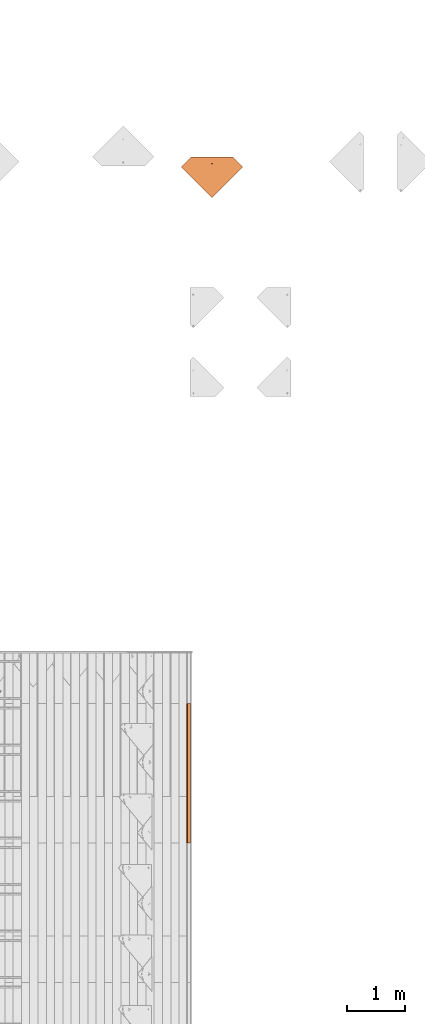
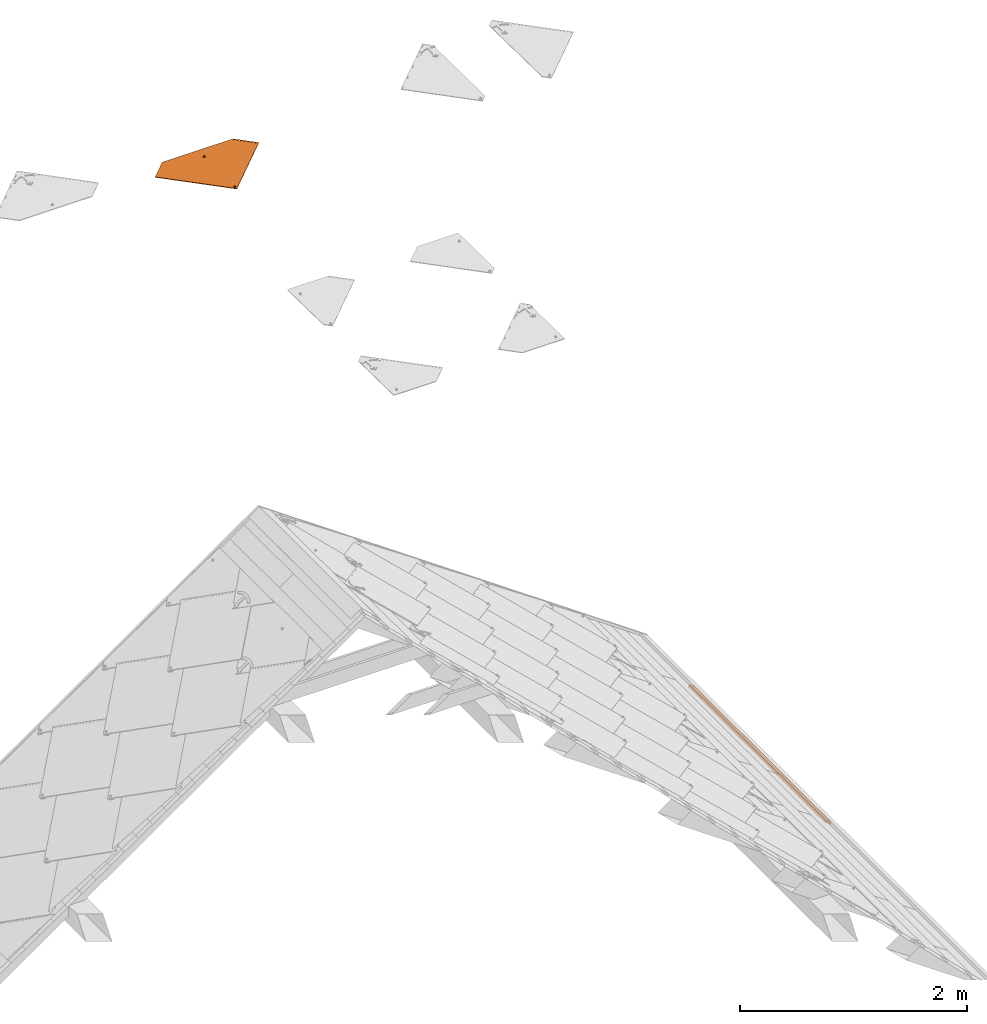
# One storey, part 92 of 133: 2 proxies, 1 element without a shape of its own.
"""IFC2X3 building model written with IfcOpenShell, lengths in millimetres."""

from ifc_helpers import new_model, entity, si_unit, converted_unit, derived_unit, direction, frame, origin, place, context, subcontext, project, spatial, polyline, outline, extrude, faceted_brep, source, transform, mapped, material, material_list, type_object, type_shapes, element, aggregate, save


model = new_model("IFC2X3")

# Units and contexts
model_context = context("Model", 3, precision=0.01, world=origin(), true_north=direction((6.12303176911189e-17, 1.0)))
body_context = subcontext(model_context, "Body", "Model", "MODEL_VIEW")
ifc_project = project(units=[si_unit("LENGTHUNIT", "METRE", prefix="MILLI"), si_unit("AREAUNIT", "SQUARE_METRE"), si_unit("VOLUMEUNIT", "CUBIC_METRE"), converted_unit("PLANEANGLEUNIT", "DEGREE", entity("IfcRatioMeasure", 0.0174532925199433), si_unit("PLANEANGLEUNIT", "RADIAN"), dimensions=[0, 0, 0, 0, 0, 0, 0]), si_unit("MASSUNIT", "GRAM", prefix="KILO"), derived_unit("MASSDENSITYUNIT", [(si_unit("MASSUNIT", "GRAM", prefix="KILO"), 1), (si_unit("LENGTHUNIT", "METRE"), -3)]), si_unit("TIMEUNIT", "SECOND"), si_unit("FREQUENCYUNIT", "HERTZ"), si_unit("THERMODYNAMICTEMPERATUREUNIT", "DEGREE_CELSIUS"), derived_unit("THERMALTRANSMITTANCEUNIT", [(si_unit("MASSUNIT", "GRAM", prefix="KILO"), 1), (si_unit("THERMODYNAMICTEMPERATUREUNIT", "KELVIN"), -1), (si_unit("TIMEUNIT", "SECOND"), -3)]), derived_unit("VOLUMETRICFLOWRATEUNIT", [(si_unit("LENGTHUNIT", "METRE"), 3), (si_unit("TIMEUNIT", "SECOND"), -1)]), si_unit("ELECTRICCURRENTUNIT", "AMPERE"), si_unit("ELECTRICVOLTAGEUNIT", "VOLT"), si_unit("POWERUNIT", "WATT"), si_unit("FORCEUNIT", "NEWTON", prefix="KILO"), si_unit("ILLUMINANCEUNIT", "LUX"), si_unit("LUMINOUSFLUXUNIT", "LUMEN"), si_unit("LUMINOUSINTENSITYUNIT", "CANDELA"), derived_unit("USERDEFINED", [(si_unit("MASSUNIT", "GRAM", prefix="KILO"), -1), (si_unit("LENGTHUNIT", "METRE"), -2), (si_unit("TIMEUNIT", "SECOND"), 3), (si_unit("LUMINOUSFLUXUNIT", "LUMEN"), 1)]), derived_unit("LINEARVELOCITYUNIT", [(si_unit("LENGTHUNIT", "METRE"), 1), (si_unit("TIMEUNIT", "SECOND"), -1)]), si_unit("PRESSUREUNIT", "PASCAL"), derived_unit("USERDEFINED", [(si_unit("LENGTHUNIT", "METRE"), -2), (si_unit("MASSUNIT", "GRAM", prefix="KILO"), 1), (si_unit("TIMEUNIT", "SECOND"), -2)])], contexts=[model_context])

# Site, building, storey
site_placement = place(None, origin())
site = spatial("IfcSite", under=ifc_project, at=site_placement, Name="Default", CompositionType="ELEMENT")
building_placement = place(site_placement, origin())
building = spatial("IfcBuilding", under=site, at=building_placement, CompositionType="ELEMENT")
storey_placement = place(building_placement, origin())
storey = spatial("IfcBuildingStorey", under=building, at=storey_placement, Name="Level 1", CompositionType="ELEMENT", Elevation=0.0)

# Assembly, proxy
assembly_placement = place(storey_placement, origin())
assembly = element("IfcElementAssembly", 1, at=assembly_placement, inside=storey, Name="Structural Framing Assembly:Roof Construction Assembly", ObjectType="Structural Framing Assembly:Roof Construction Assembly", AssemblyPlace="NOTDEFINED", PredefinedType="USERDEFINED")
ifc_material_1 = material(Name="Wood - Generic - Wood For Showcase")
building_element_proxy_type_1 = type_object("IfcBuildingElementProxyType", Name="Structural Framing 15", PredefinedType="NOTDEFINED", material=ifc_material_1)
shared_shape_1 = source(origin(), body_context, "Body", "SweptSolid", [
    extrude(outline(polyline([(-12.4999999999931, -38.2231230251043), (12.4999999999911, -38.2231230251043), (12.4999999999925, 29.4705287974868), (-12.499999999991, 46.975717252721), (-12.4999999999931, -38.2231230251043)])), frame((5101.25878028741, -6581.94919785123, 88.3155178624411), z_axis=(0.0, 1.0, 0.0), x_axis=(0.573576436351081, 0.0, 0.819152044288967)), (0.0, 0.0, 1.0), 2399.99999999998),
])
type_shapes(building_element_proxy_type_1, [shared_shape_1])
proxy_1_placement = place(assembly_placement, frame((0.0, 7237.49999999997, 0.0)))
proxy_1 = element("IfcBuildingElementProxy", 2, at=proxy_1_placement, type_object=building_element_proxy_type_1, material=ifc_material_1, Name="Structural Framing 292:Structural Framing 15", ObjectType="Structural Framing 292:Structural Framing 15", context=body_context, shape_type="MappedRepresentation", body=[
    mapped(shared_shape_1, transform((0.0, 0.0, 0.0), scale=1.0)),
])
aggregate(assembly, [proxy_1])

# Proxy
ifc_material_2 = material(Name="Rubber - Sunstyle - Black")
ifc_material_3 = material(Name="Glass - Sunstyle - Tainted Black")
ifc_material_list_1 = material_list([ifc_material_2, ifc_material_3])
ifc_material_list_2 = material_list([ifc_material_2, ifc_material_3])
building_element_proxy_type_2 = type_object("IfcBuildingElementProxyType", Name="Shingle Top - Black", PredefinedType="NOTDEFINED", material=ifc_material_list_2)
shared_shape_2 = source(origin(), body_context, "Body", "Brep", [
    faceted_brep([(-518.396436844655, -96.9865733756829, 16.4476231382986), (-518.396436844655, -96.9614556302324, 17.9474128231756), (-526.881123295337, -88.4767691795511, 17.8053154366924), (-526.881123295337, -88.5018869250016, 16.3055257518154), (-376.996804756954, 61.3404039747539, 13.7960402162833), (-368.512118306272, 52.8557175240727, 13.9381376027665), (-376.996804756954, 61.3655217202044, 15.2958299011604), (-368.512118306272, 52.8808352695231, 15.4379272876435)], [[[0, 1, 2, 3]], [[0, 3, 4, 5]], [[3, 2, 6, 4]], [[2, 1, 7, 6]], [[1, 0, 5, 7]], [[5, 4, 6, 7]]]),
    faceted_brep([(0.166366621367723, -33.6374645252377, -4.47296585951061), (-5.6078362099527, -36.9707346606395, -4.4171418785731), (-5.60783620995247, -36.6024255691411, 17.5747274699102), (0.166366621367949, -33.2691554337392, 17.5189034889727), (-5.60783620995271, -43.6372749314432, -4.30549391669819), (-5.60783620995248, -43.2689658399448, 17.6863754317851), (0.166366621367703, -46.9705450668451, -4.24966993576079), (0.166366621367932, -46.6022359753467, 17.7421994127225), (5.94056945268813, -43.6372749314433, -4.30549391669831), (5.94056945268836, -43.2689658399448, 17.686375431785), (5.94056945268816, -36.9707346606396, -4.41714187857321), (5.94056945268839, -36.6024255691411, 17.5747274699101), (-8.43733754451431, -48.5381935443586, 17.774621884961), (0.16636662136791, -52.1014648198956, 17.8342978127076), (-12.0011084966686, -39.9356957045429, 17.6305514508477), (-8.43733754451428, -31.3331978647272, 17.4864810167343), (0.166366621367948, -27.7699265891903, 17.4268050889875), (8.77007078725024, -31.3331978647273, 17.4864810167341), (12.3338417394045, -39.935695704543, 17.6305514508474), (8.77007078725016, -48.5381935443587, 17.7746218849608), (-11.1578780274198, -37.6406185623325, 19.9433933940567), (-9.59010793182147, -39.8646808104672, 21.8708760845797), (0.166366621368, -32.5516055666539, 22.5035764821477), (0.166366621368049, -31.3111079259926, 21.9232298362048), (0.166366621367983, -29.1535570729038, 20.9138547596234), (0.166366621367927, -51.5454208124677, 19.1093557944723), (0.166366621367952, -50.6018442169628, 21.273060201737), (0.166366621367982, -47.1524685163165, 22.7481046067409), (0.166366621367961, -28.2829626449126, 18.7197675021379), (-6.15687907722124, -43.5022527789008, 22.6869725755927), (-6.15687907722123, -36.2018213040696, 22.5647085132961), (11.4906112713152, -42.1520387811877, 20.0189484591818), (10.0152467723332, -40.9390872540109, 21.7920079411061), (6.48961231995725, -36.2018213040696, 22.564708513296), (6.48961231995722, -43.5022527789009, 22.6869725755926), (-6.15687907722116, -43.3682243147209, 30.68986075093), (0.166366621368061, -47.0184400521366, 30.7509927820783), (0.166366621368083, -39.7180085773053, 30.6287287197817), (-6.15687907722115, -36.0677928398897, 30.5675966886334), (6.48961231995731, -43.368224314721, 30.6898607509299), (6.48961231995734, -36.0677928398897, 30.5675966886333), (0.166366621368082, -32.417577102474, 30.5064646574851), (0.166366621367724, -40.3040047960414, -4.36131789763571)], [[[0, 1, 2, 3]], [[1, 4, 5, 2]], [[4, 6, 7, 5]], [[6, 8, 9, 7]], [[8, 10, 11, 9]], [[10, 0, 3, 11]], [[12, 7, 13]], [[7, 12, 5]], [[14, 5, 12]], [[5, 14, 2]], [[15, 2, 14]], [[3, 2, 15]], [[15, 16, 3]], [[16, 17, 3]], [[11, 3, 17]], [[11, 17, 18]], [[9, 11, 18]], [[18, 19, 9]], [[7, 9, 19]], [[19, 13, 7]], [[20, 14, 12]], [[21, 22, 23, 24]], [[24, 20, 21]], [[25, 20, 12]], [[26, 27, 21]], [[15, 14, 20]], [[12, 13, 25]], [[20, 28, 15]], [[28, 20, 24]], [[21, 27, 29]], [[21, 29, 30]], [[26, 21, 20]], [[20, 25, 26]], [[15, 28, 16]], [[21, 30, 22]], [[31, 18, 17]], [[28, 31, 17]], [[32, 27, 26]], [[26, 31, 32]], [[26, 25, 31]], [[25, 19, 31]], [[17, 16, 28]], [[31, 19, 18]], [[24, 31, 28]], [[33, 34, 32]], [[23, 22, 33]], [[24, 32, 31]], [[27, 32, 34]], [[32, 23, 33]], [[19, 25, 13]], [[32, 24, 23]], [[35, 36, 37]], [[37, 38, 35]], [[36, 39, 37]], [[40, 37, 39]], [[37, 40, 41]], [[37, 41, 38]], [[42, 6, 4]], [[4, 1, 42]], [[1, 0, 42]], [[42, 8, 6]], [[0, 10, 42]], [[8, 42, 10]], [[22, 30, 38, 41]], [[30, 29, 35, 38]], [[29, 27, 36, 35]], [[27, 34, 39, 36]], [[34, 33, 40, 39]], [[33, 22, 41, 40]]]),
    faceted_brep([(0.0, -573.927138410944, 4.00636906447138), (-5.77420283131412, -577.260408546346, 4.0621930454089), (-5.77420283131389, -576.892099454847, 26.0540623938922), (0.0, -573.558829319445, 25.9982384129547), (-5.77420283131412, -583.926948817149, 4.1738410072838), (-5.7742028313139, -583.558639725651, 26.1657103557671), (0.0, -587.260218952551, 4.2296649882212), (0.0, -586.891909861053, 26.2215343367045), (5.77420283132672, -583.926948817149, 4.17384100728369), (5.77420283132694, -583.558639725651, 26.165710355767), (5.77420283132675, -577.260408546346, 4.06219304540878), (5.77420283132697, -576.892099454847, 26.0540623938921), (-8.60370416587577, -588.827867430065, 26.253956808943), (0.0, -592.391138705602, 26.3136327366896), (-12.1674751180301, -580.225369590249, 26.1098863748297), (-8.60370416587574, -571.622871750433, 25.9658159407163), (0.0, -568.059600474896, 25.9061400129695), (8.60370416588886, -571.622871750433, 25.9658159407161), (12.1674751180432, -580.225369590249, 26.1098863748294), (8.60370416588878, -588.827867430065, 26.2539568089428), (-11.3242446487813, -577.930292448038, 28.4227283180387), (-9.75647455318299, -580.154354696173, 30.3502110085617), (0.0, -572.84127945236, 30.9829114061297), (0.0, -571.600781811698, 30.4025647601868), (0.0, -569.44323095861, 29.3931896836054), (0.0, -591.835094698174, 27.5886907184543), (0.0, -590.891518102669, 29.752395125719), (0.0, -587.442142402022, 31.227439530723), (0.0, -568.572636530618, 27.1991024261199), (-6.32324569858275, -583.791926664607, 31.1663074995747), (-6.32324569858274, -576.491495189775, 31.0440434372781), (11.3242446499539, -582.441712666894, 28.4982833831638), (9.84888015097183, -581.228761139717, 30.2713428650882), (6.32324569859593, -576.491495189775, 31.044043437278), (6.32324569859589, -583.791926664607, 31.1663074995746), (-6.32324569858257, -583.657898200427, 39.169195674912), (0.0, -587.308113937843, 39.2303277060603), (0.0, -580.007682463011, 39.1080636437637), (-6.32324569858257, -576.357466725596, 39.0469316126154), (6.32324569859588, -583.657898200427, 39.1691956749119), (6.32324569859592, -576.357466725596, 39.0469316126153), (0.0, -572.70725098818, 38.9857995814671), (0.0, -580.593678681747, 4.11801702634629)], [[[0, 1, 2, 3]], [[1, 4, 5, 2]], [[4, 6, 7, 5]], [[6, 8, 9, 7]], [[8, 10, 11, 9]], [[10, 0, 3, 11]], [[12, 7, 13]], [[7, 12, 5]], [[14, 5, 12]], [[5, 14, 2]], [[15, 2, 14]], [[3, 2, 15]], [[15, 16, 3]], [[16, 17, 3]], [[11, 3, 17]], [[11, 17, 18]], [[9, 11, 18]], [[18, 19, 9]], [[7, 9, 19]], [[19, 13, 7]], [[20, 14, 12]], [[21, 22, 23, 24]], [[24, 20, 21]], [[25, 20, 12]], [[26, 27, 21]], [[15, 14, 20]], [[12, 13, 25]], [[20, 28, 15]], [[28, 20, 24]], [[21, 27, 29]], [[21, 29, 30]], [[26, 21, 20]], [[20, 25, 26]], [[15, 28, 16]], [[21, 30, 22]], [[31, 18, 17]], [[28, 31, 17]], [[32, 27, 26]], [[26, 31, 32]], [[26, 25, 31]], [[25, 19, 31]], [[17, 16, 28]], [[31, 19, 18]], [[24, 31, 28]], [[33, 34, 32]], [[23, 22, 33]], [[24, 32, 31]], [[27, 32, 34]], [[32, 23, 33]], [[19, 25, 13]], [[32, 24, 23]], [[35, 36, 37]], [[37, 38, 35]], [[36, 39, 37]], [[40, 37, 39]], [[37, 40, 41]], [[37, 41, 38]], [[42, 6, 4]], [[4, 1, 42]], [[1, 0, 42]], [[42, 8, 6]], [[0, 10, 42]], [[8, 42, 10]], [[22, 30, 38, 41]], [[30, 29, 35, 38]], [[29, 27, 36, 35]], [[27, 34, 39, 36]], [[34, 33, 40, 39]], [[33, 22, 41, 40]]]),
    faceted_brep([(518.482751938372, -96.8754983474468, 17.9260478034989), (526.967438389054, -88.3908118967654, 17.7839504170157), (526.967438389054, -88.3656941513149, 19.2837401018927), (518.482751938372, -96.8503806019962, 19.4258374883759), (349.749400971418, 71.8105397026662, 15.1009763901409), (358.234087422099, 80.2952261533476, 14.9588790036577), (358.234087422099, 80.3203438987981, 16.4586686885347), (349.749400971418, 71.8356574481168, 16.6007660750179)], [[[0, 1, 2, 3]], [[1, 0, 4, 5]], [[2, 1, 5, 6]], [[3, 2, 6, 7]], [[0, 3, 7, 4]], [[4, 7, 6, 5]]]),
    faceted_brep([(358.234087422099, 80.2952261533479, 14.9588790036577), (6.94661128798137, -35.8890860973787, 16.9046771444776), (7.74581466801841, -37.8182632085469, 16.9369860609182), (5.67526230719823, -34.2324641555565, 16.8769328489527), (8.01840805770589, -39.8885252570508, 16.9716577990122), (7.74581466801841, -41.9587873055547, 17.0063295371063), (6.94661128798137, -43.8879644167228, 17.0386384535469), (526.967438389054, -88.3908118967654, 17.7839504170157), (4.01840805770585, -32.9612934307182, 16.855643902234), (2.08896041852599, -32.1622021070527, 16.8422611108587), (0.0184080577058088, -31.8896469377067, 16.8376964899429), (-358.233442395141, 80.2952261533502, 14.9588790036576), (-2.05214430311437, -32.1622021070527, 16.8422611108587), (-3.98159194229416, -32.9612934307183, 16.855643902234), (-5.63844619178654, -34.2324641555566, 16.8769328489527), (-6.90979517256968, -35.8890860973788, 16.9046771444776), (-7.70899855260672, -37.8182632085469, 16.9369860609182), (-7.98159194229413, -39.8885252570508, 16.9716577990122), (-7.70899855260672, -41.9587873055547, 17.0063295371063), (-6.90979517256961, -43.8879644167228, 17.0386384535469), (-526.966793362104, -88.390811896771, 17.7839504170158), (-5.63844619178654, -45.544586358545, 17.0663827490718), (-5.6568542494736, -574.226981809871, 25.9204974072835), (-6.92820323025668, -575.883603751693, 25.9482417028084), (-7.72740661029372, -577.812780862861, 25.980550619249), (-8.0, -579.883042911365, 26.015222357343), (-7.72740661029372, -581.953304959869, 26.049894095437), (0.000322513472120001, -615.210165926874, 26.6068637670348), (7.72740661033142, -581.953304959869, 26.049894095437), (6.92820323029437, -583.882482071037, 26.0822030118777), (5.65685424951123, -585.53910401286, 26.1099473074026), (4.0, -586.810274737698, 26.1312362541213), (2.070552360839, -587.609366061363, 26.1446190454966), (0.0, -587.881921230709, 26.1491836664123), (-2.0705523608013, -587.609366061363, 26.1446190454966), (-4.0, -586.810274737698, 26.1312362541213), (-5.65685424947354, -585.53910401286, 26.1099473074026), (-6.92820323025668, -583.882482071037, 26.0822030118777), (-4.0, -572.955811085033, 25.8992084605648), (-3.98159194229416, -46.8157570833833, 17.0876716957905), (-2.07055236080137, -572.156719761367, 25.8858256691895), (-2.05214430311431, -47.614848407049, 17.1010544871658), (0.0, -571.884164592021, 25.8812610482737), (0.0184080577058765, -47.8874035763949, 17.1056191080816), (2.07055236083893, -572.156719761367, 25.8858256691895), (2.08896041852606, -47.6148484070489, 17.1010544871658), (4.0, -572.955811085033, 25.8992084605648), (4.01840805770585, -46.8157570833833, 17.0876716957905), (5.65685424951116, -574.226981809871, 25.9204974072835), (5.67526230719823, -45.544586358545, 17.0663827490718), (6.92820323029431, -575.883603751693, 25.9482417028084), (7.72740661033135, -577.812780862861, 25.980550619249), (8.0, -579.883042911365, 26.015222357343), (-358.233442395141, 80.1947551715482, 8.9597202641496), (-6.90979517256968, -35.9895570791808, 10.9055184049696), (-7.70899855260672, -37.9187341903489, 10.9378273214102), (-5.63844619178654, -34.3329351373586, 10.8777741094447), (-7.98159194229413, -39.9889962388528, 10.9724990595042), (-7.70899855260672, -42.0592582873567, 11.0071707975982), (-6.90979517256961, -43.9884353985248, 11.0394797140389), (-526.966793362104, -88.4912828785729, 11.7847916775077), (-3.98159194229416, -33.0617644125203, 10.856485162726), (-2.05214430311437, -32.2626730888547, 10.8431023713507), (0.0184080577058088, -31.9901179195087, 10.8385377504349), (358.234087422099, 80.1947551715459, 8.95972026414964), (2.08896041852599, -32.2626730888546, 10.8431023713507), (4.01840805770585, -33.0617644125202, 10.856485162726), (5.67526230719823, -34.3329351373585, 10.8777741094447), (6.94661128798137, -35.9895570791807, 10.9055184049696), (7.74581466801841, -37.9187341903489, 10.9378273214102), (8.01840805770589, -39.9889962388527, 10.9724990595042), (7.74581466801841, -42.0592582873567, 11.0071707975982), (6.94661128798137, -43.9884353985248, 11.0394797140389), (526.967438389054, -88.4912828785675, 11.7847916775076), (5.67526230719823, -45.645057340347, 11.0672240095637), (5.65685424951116, -574.327452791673, 19.9213386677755), (6.92820323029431, -575.984074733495, 19.9490829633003), (7.72740661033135, -577.913251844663, 19.981391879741), (8.0, -579.983513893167, 20.016063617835), (7.72740661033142, -582.053775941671, 20.050735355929), (0.000322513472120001, -615.310636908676, 20.6077050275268), (-7.72740661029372, -582.053775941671, 20.050735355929), (-6.92820323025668, -583.982953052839, 20.0830442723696), (-5.65685424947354, -585.639574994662, 20.1107885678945), (-4.0, -586.9107457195, 20.1320775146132), (-2.0705523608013, -587.709837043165, 20.1454603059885), (0.0, -587.982392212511, 20.1500249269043), (2.070552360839, -587.709837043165, 20.1454603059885), (4.0, -586.9107457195, 20.1320775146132), (5.65685424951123, -585.639574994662, 20.1107885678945), (6.92820323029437, -583.982953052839, 20.0830442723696), (4.01840805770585, -46.9162280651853, 11.0885129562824), (4.0, -573.056282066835, 19.9000497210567), (2.08896041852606, -47.7153193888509, 11.1018957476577), (2.07055236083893, -572.257190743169, 19.8866669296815), (0.0184080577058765, -47.9878745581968, 11.1064603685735), (0.0, -571.984635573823, 19.8821023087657), (-2.05214430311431, -47.7153193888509, 11.1018957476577), (-2.07055236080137, -572.257190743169, 19.8866669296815), (-3.98159194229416, -46.9162280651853, 11.0885129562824), (-4.0, -573.056282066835, 19.9000497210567), (-5.63844619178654, -45.645057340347, 11.0672240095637), (-5.6568542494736, -574.327452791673, 19.9213386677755), (-6.92820323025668, -575.984074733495, 19.9490829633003), (-7.72740661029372, -577.913251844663, 19.981391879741), (-8.0, -579.983513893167, 20.016063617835)], [[[0, 1, 2]], [[1, 0, 3]], [[0, 2, 4]], [[4, 5, 0]], [[5, 6, 0]], [[7, 0, 6]], [[8, 3, 0]], [[9, 8, 0]], [[10, 9, 0]], [[0, 11, 10]], [[12, 10, 11]], [[13, 12, 11]], [[14, 13, 11]], [[11, 15, 14]], [[15, 11, 16]], [[16, 11, 17]], [[11, 18, 17]], [[18, 11, 19]], [[11, 20, 19]], [[19, 20, 21]], [[20, 22, 21]], [[23, 22, 20]], [[24, 23, 20]], [[24, 20, 25]], [[26, 25, 20]], [[27, 26, 20]], [[7, 28, 27]], [[29, 27, 28]], [[27, 29, 30]], [[30, 31, 27]], [[31, 32, 27]], [[27, 32, 33]], [[27, 33, 34]], [[34, 35, 27]], [[27, 35, 36]], [[36, 37, 27]], [[37, 26, 27]], [[38, 21, 22]], [[38, 39, 21]], [[38, 40, 39]], [[40, 41, 39]], [[40, 42, 41]], [[41, 42, 43]], [[44, 43, 42]], [[44, 45, 43]], [[45, 44, 46]], [[46, 47, 45]], [[46, 48, 47]], [[48, 49, 47]], [[50, 7, 48]], [[48, 7, 49]], [[7, 50, 51]], [[7, 51, 52]], [[52, 28, 7]], [[7, 6, 49]], [[53, 54, 55]], [[54, 53, 56]], [[53, 55, 57]], [[58, 53, 57]], [[59, 53, 58]], [[60, 53, 59]], [[61, 56, 53]], [[62, 61, 53]], [[53, 63, 62]], [[63, 53, 64]], [[65, 63, 64]], [[66, 65, 64]], [[64, 67, 66]], [[67, 64, 68]], [[68, 64, 69]], [[70, 69, 64]], [[71, 70, 64]], [[72, 71, 64]], [[72, 64, 73]], [[72, 73, 74]], [[74, 73, 75]], [[73, 76, 75]], [[76, 73, 77]], [[77, 73, 78]], [[79, 78, 73]], [[79, 73, 80]], [[60, 81, 80]], [[80, 81, 82]], [[80, 82, 83]], [[83, 84, 80]], [[84, 85, 80]], [[85, 86, 80]], [[80, 86, 87]], [[80, 87, 88]], [[80, 88, 89]], [[79, 80, 90]], [[80, 89, 90]], [[75, 91, 74]], [[75, 92, 91]], [[92, 93, 91]], [[93, 92, 94]], [[93, 94, 95]], [[96, 95, 94]], [[97, 95, 96]], [[96, 98, 97]], [[98, 99, 97]], [[98, 100, 99]], [[100, 101, 99]], [[100, 102, 101]], [[60, 101, 102]], [[103, 60, 102]], [[103, 104, 60]], [[104, 105, 60]], [[105, 81, 60]], [[59, 101, 60]], [[27, 20, 60, 80]], [[7, 27, 80, 73]], [[0, 7, 73, 64]], [[25, 105, 104, 24]], [[24, 104, 103, 23]], [[38, 22, 102, 100]], [[102, 22, 23, 103]], [[40, 38, 100, 98]], [[40, 98, 96, 42]], [[42, 96, 94, 44]], [[44, 94, 92, 46]], [[50, 48, 75, 76]], [[75, 48, 46, 92]], [[51, 50, 76, 77]], [[51, 77, 78, 52]], [[52, 78, 79, 28]], [[28, 79, 90, 29]], [[31, 30, 89, 88]], [[29, 90, 89, 30]], [[87, 32, 31, 88]], [[32, 87, 86, 33]], [[34, 33, 86, 85]], [[34, 85, 84, 35]], [[37, 36, 83, 82]], [[35, 84, 83, 36]], [[37, 82, 81, 26]], [[26, 81, 105, 25]], [[17, 57, 55, 16]], [[16, 55, 54, 15]], [[13, 14, 56, 61]], [[56, 14, 15, 54]], [[12, 13, 61, 62]], [[12, 62, 63, 10]], [[10, 63, 65, 9]], [[9, 65, 66, 8]], [[1, 3, 67, 68]], [[67, 3, 8, 66]], [[2, 1, 68, 69]], [[2, 69, 70, 4]], [[4, 70, 71, 5]], [[5, 71, 72, 6]], [[47, 49, 74, 91]], [[74, 49, 6, 72]], [[45, 47, 91, 93]], [[45, 93, 95, 43]], [[43, 95, 97, 41]], [[41, 97, 99, 39]], [[19, 21, 101, 59]], [[101, 21, 39, 99]], [[18, 19, 59, 58]], [[18, 58, 57, 17]], [[11, 0, 64, 53]], [[20, 11, 53, 60]]]),
])
type_shapes(building_element_proxy_type_2, [shared_shape_2])
proxy_2_placement = place(storey_placement, frame((5499.60847418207, 12373.1387530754, 0.0)))
element("IfcBuildingElementProxy", 3, at=proxy_2_placement, inside=storey, type_object=building_element_proxy_type_2, material=ifc_material_list_1, Name="Roofing_Panels_SunStyle_Tile_Shingle-Top:Shingle Top - Black", ObjectType="Roofing_Panels_SunStyle_Tile_Shingle-Top:Shingle Top - Black", context=body_context, shape_type="MappedRepresentation", body=[
    mapped(shared_shape_2, transform((0.0, 0.0, 0.0), scale=1.0)),
])

save(model, "model.ifc")
